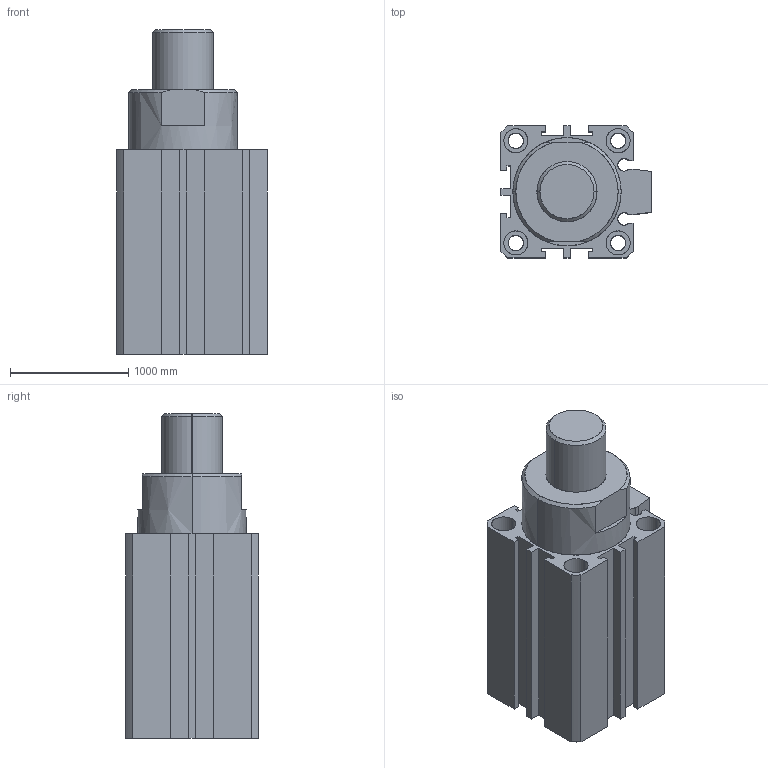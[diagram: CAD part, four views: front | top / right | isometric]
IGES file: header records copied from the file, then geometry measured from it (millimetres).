
Start section: SolidWorks IGES file using analytic representation for surfaces
Global section: file name: C:\Documents and Settings\Standard\Bureau\NM pieces 3d\ELO 32 20 tige sortie.IGS; native system: SolidWorks 2007; preprocessor: SolidWorks 2007; author: Standard; date: 080328.102807; units: inch
Bounding box: 1270 x 1117.6 x 2743.2 mm (x, y, z)
Surface area: 23212611 mm2 (no closed solid volume)
Topology: 0 solids, 0 shells, 528 faces, 13317 edges, 13359 vertices
Faces by surface type: bspline 481, revolution 47
